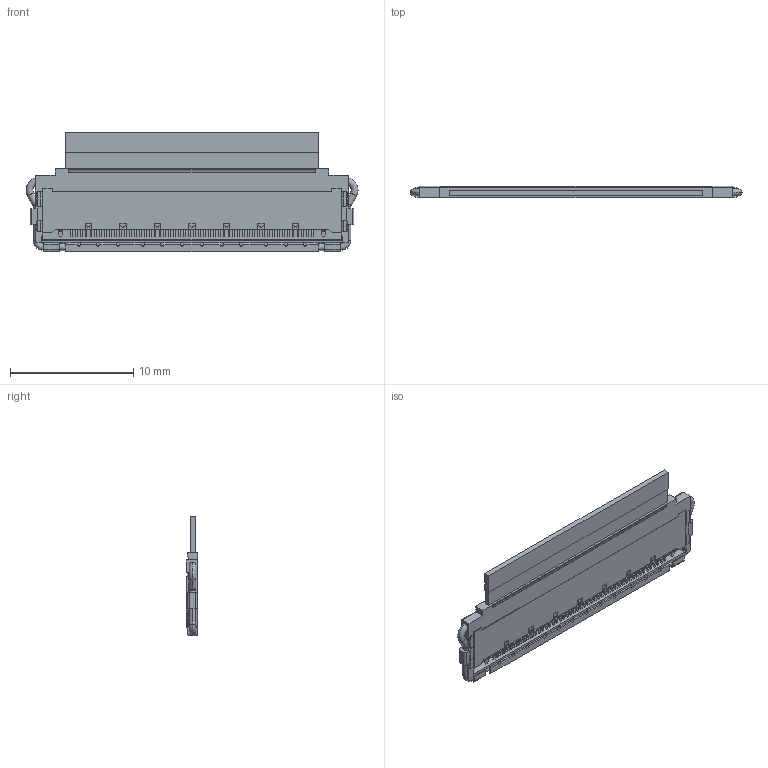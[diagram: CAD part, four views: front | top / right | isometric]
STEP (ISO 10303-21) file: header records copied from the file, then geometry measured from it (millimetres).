
FILE_DESCRIPTION (( 'STEP AP203' ), '1' );
FILE_NAME ('MATING ASS''Y.STEP', '2022-11-25T01:49:08', ( '' ), ( '' ), 'SwSTEP 2.0', 'SolidWorks 2020', '' );
FILE_SCHEMA (( 'CONFIG_CONTROL_DESIGN' ));
Length unit declared in the file: millimetre
Products named in the file (1): MATING ASS''Y
Bounding box: 26.95 x 0.96 x 9.7 mm (x, y, z)
Volume: 159.4 mm3; surface area: 643 mm2
Topology: 1 solids, 1 shells, 1582 faces, 4458 edges, 2956 vertices
Faces by surface type: plane 1148, cylinder 422, torus 12
Entity records: 51029 total; most frequent: CARTESIAN_POINT 9133, ORIENTED_EDGE 8916, DIRECTION 8482, EDGE_CURVE 4458, LINE 3540, VECTOR 3540, VERTEX_POINT 2956, AXIS2_PLACEMENT_3D 2471
